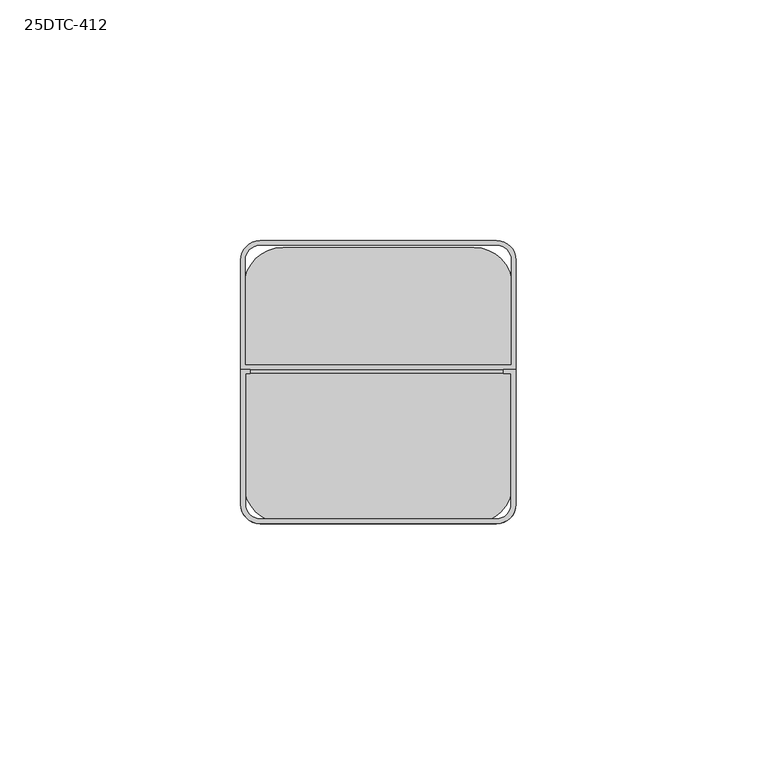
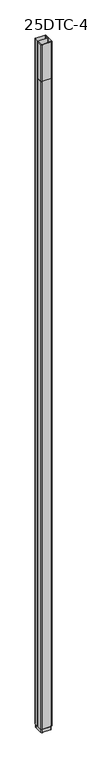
"""IFC4 building model written with IfcOpenShell, lengths in millimetres: proxy geometry, Vertical_Drop_Poles-Wiremold-Blank_Steel_Pole : 25DTC-412."""

from ifc_helpers import new_model, si_unit, point, frame, frame_2d, origin, origin_with_axes, place, context, project, spatial, polyline, circle_curve, trimmed, segment, composite_curve, outline, extrude, source, transform, mapped, element, save


def proxy_25dtc_412_dea5110c(model_context):
    return source(origin(), model_context, "Body", "SweptSolid", [
        extrude(outline(composite_curve([segment(polyline([(28.575, 31.25), (28.575, 3.25)]), True, "CONTINUOUS"), segment(trimmed(circle_curve(frame_2d((24.575, 3.25)), 4.0), [point((28.575, 3.25))], [point((24.575, -0.75))], False, "CARTESIAN"), True, "CONTINUOUS"), segment(polyline([(24.575, -0.75), (-24.575, -0.75)]), True, "CONTINUOUS"), segment(trimmed(circle_curve(frame_2d((-24.575, 3.25)), 4.0), [point((-24.575, -0.75))], [point((-28.575, 3.25))], False, "CARTESIAN"), True, "CONTINUOUS"), segment(polyline([(-28.575, 3.25), (-28.575, 31.25), (-26.5875, 31.25), (-26.5875, 30.45), (-27.575, 30.45), (-27.575, 3.25)]), True, "CONTINUOUS"), segment(trimmed(circle_curve(frame_2d((-24.575, 3.25)), 3.0), [point((-27.575, 3.25))], [point((-24.575, 0.25))], True, "CARTESIAN"), True, "CONTINUOUS"), segment(polyline([(-24.575, 0.25), (24.575, 0.25)]), True, "CONTINUOUS"), segment(trimmed(circle_curve(frame_2d((24.575, 3.25)), 3.0), [point((24.575, 0.25))], [point((27.575, 3.25))], True, "CARTESIAN"), True, "CONTINUOUS"), segment(polyline([(27.575, 3.25), (27.575, 30.45), (25.9875, 30.45), (25.9875, 31.25), (28.575, 31.25)]), True, "CONTINUOUS")], self_intersect=False)), frame((0.0, 0.0, 3581.4), z_axis=(0.0, 0.0, 1.0), x_axis=(1.0, 0.0, 0.0)), (0.0, 0.0, 1.0), 203.2),
        extrude(outline(composite_curve([segment(trimmed(circle_curve(frame_2d((19.825, 49.2375)), 8.0), [point((19.825, 57.2375))], [point((27.825, 49.2375))], False, "CARTESIAN"), True, "CONTINUOUS"), segment(polyline([(27.825, 49.2375), (27.825, 8.0)]), True, "CONTINUOUS"), segment(trimmed(circle_curve(frame_2d((19.825, 8.0)), 8.0), [point((27.825, 8.0))], [point((19.825, 0.0))], False, "CARTESIAN"), True, "CONTINUOUS"), segment(polyline([(19.825, 0.0), (-19.825, 0.0)]), True, "CONTINUOUS"), segment(trimmed(circle_curve(frame_2d((-19.825, 8.0)), 8.0), [point((-19.825, 0.0))], [point((-27.825, 8.0))], False, "CARTESIAN"), True, "CONTINUOUS"), segment(polyline([(-27.825, 8.0), (-27.825, 49.2375)]), True, "CONTINUOUS"), segment(trimmed(circle_curve(frame_2d((-19.825, 49.2375)), 8.0), [point((-27.825, 49.2375))], [point((-19.825, 57.2375))], False, "CARTESIAN"), True, "CONTINUOUS"), segment(polyline([(-19.825, 57.2375), (19.825, 57.2375)]), True, "CONTINUOUS")], self_intersect=False)), frame((0.0, 0.0, -19.0), z_axis=(0.0, 0.0, 1.0), x_axis=(1.0, 0.0, 0.0)), (0.0, 0.0, 1.0), 19.0),
        extrude(outline(composite_curve([segment(trimmed(circle_curve(frame_2d((24.575, 53.9875)), 4.0), [point((24.575, 57.9875))], [point((28.575, 53.9875))], False, "CARTESIAN"), True, "CONTINUOUS"), segment(polyline([(28.575, 53.9875), (28.575, 31.25), (-28.575, 31.25), (-28.575, 53.9875)]), True, "CONTINUOUS"), segment(trimmed(circle_curve(frame_2d((-24.575, 53.9875)), 4.0), [point((-28.575, 53.9875))], [point((-24.575, 57.9875))], False, "CARTESIAN"), True, "CONTINUOUS"), segment(polyline([(-24.575, 57.9875), (24.575, 57.9875)]), True, "CONTINUOUS")], self_intersect=False), holes=[composite_curve([segment(polyline([(27.575, 32.25), (27.575, 53.9875)]), True, "CONTINUOUS"), segment(trimmed(circle_curve(frame_2d((24.575, 53.9875)), 3.0), [point((27.575, 53.9875))], [point((24.575, 56.9875))], True, "CARTESIAN"), True, "CONTINUOUS"), segment(polyline([(24.575, 56.9875), (-24.575, 56.9875)]), True, "CONTINUOUS"), segment(trimmed(circle_curve(frame_2d((-24.575, 53.9875)), 3.0), [point((-24.575, 56.9875))], [point((-27.575, 53.9875))], True, "CARTESIAN"), True, "CONTINUOUS"), segment(polyline([(-27.575, 53.9875), (-27.575, 32.25), (27.575, 32.25)]), True, "CONTINUOUS")], self_intersect=False)]), origin_with_axes(), (0.0, 0.0, 1.0), 3784.6),
        extrude(outline(composite_curve([segment(polyline([(28.575, 31.25), (28.575, 3.25)]), True, "CONTINUOUS"), segment(trimmed(circle_curve(frame_2d((24.575, 3.25)), 4.0), [point((28.575, 3.25))], [point((24.575, -0.75))], False, "CARTESIAN"), True, "CONTINUOUS"), segment(polyline([(24.575, -0.75), (-24.575, -0.75)]), True, "CONTINUOUS"), segment(trimmed(circle_curve(frame_2d((-24.575, 3.25)), 4.0), [point((-24.575, -0.75))], [point((-28.575, 3.25))], False, "CARTESIAN"), True, "CONTINUOUS"), segment(polyline([(-28.575, 3.25), (-28.575, 31.25), (28.575, 31.25)]), True, "CONTINUOUS")], self_intersect=False), holes=[composite_curve([segment(polyline([(-27.575, 30.45), (-27.575, 3.25)]), True, "CONTINUOUS"), segment(trimmed(circle_curve(frame_2d((-24.575, 3.25)), 3.0), [point((-27.575, 3.25))], [point((-24.575, 0.25))], True, "CARTESIAN"), True, "CONTINUOUS"), segment(polyline([(-24.575, 0.25), (24.575, 0.25)]), True, "CONTINUOUS"), segment(trimmed(circle_curve(frame_2d((24.575, 3.25)), 3.0), [point((24.575, 0.25))], [point((27.575, 3.25))], True, "CARTESIAN"), True, "CONTINUOUS"), segment(polyline([(27.575, 3.25), (27.575, 30.45), (-27.575, 30.45)]), True, "CONTINUOUS")], self_intersect=False)]), origin_with_axes(), (0.0, 0.0, 1.0), 3581.4),
    ])


if __name__ == "__main__":
    model = new_model("IFC4")
    model_context = context("Model", 3, world=origin())
    ifc_project = project(units=[si_unit("LENGTHUNIT", "METRE", prefix="MILLI")], contexts=[model_context])
    site = spatial("IfcSite", under=ifc_project)
    building = spatial("IfcBuilding", under=site)
    placement = place(None, origin())
    proxy_25dtc_412_shape = proxy_25dtc_412_dea5110c(model_context)
    element("IfcBuildingElementProxy", 1, Name="Vertical_Drop_Poles-Wiremold-Blank_Steel_Pole : 25DTC-412", ObjectType="Vertical_Drop_Poles-Wiremold-Blank_Steel_Pole : 25DTC-412", at=placement, inside=building, context=model_context, shape_type="MappedRepresentation", body=[
        mapped(proxy_25dtc_412_shape, transform((0.0, 0.0, 0.0), x_axis=(1.0, 0.0, 0.0), y_axis=(0.0, 1.0, 0.0), z_axis=(0.0, 0.0, 1.0))),
    ])
    save(model, "model.ifc")
